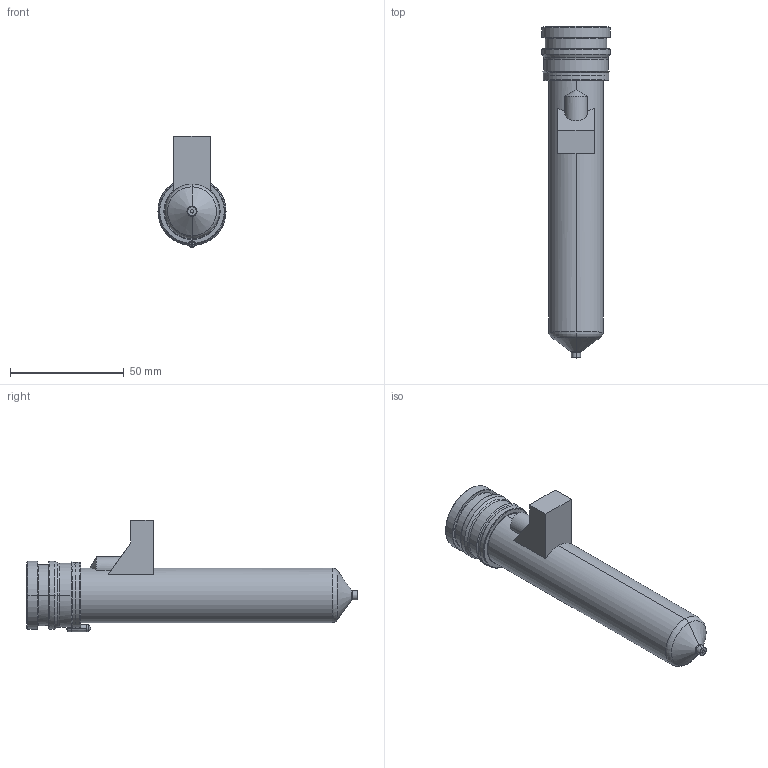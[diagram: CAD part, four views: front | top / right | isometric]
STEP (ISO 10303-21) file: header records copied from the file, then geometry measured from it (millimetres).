
FILE_DESCRIPTION((''),'2;1');
FILE_NAME('MPN-10-29-VP4-126-M','2026-02-05T12:59:04',('UPTIO'),('Thermoplay S.p.A.'),'CREO PARAMETRIC BY PTC INC, 2023494','CREO PARAMETRIC BY PTC INC, 2023494','');
FILE_SCHEMA(('CONFIG_CONTROL_DESIGN','SHAPE_APPEARANCE_LAYERS_GROUPS'));
Length unit declared in the file: millimetre
Products named in the file (1): MPN-10-29-VP4-126-M
Bounding box: 30 x 146.1 x 49 mm (x, y, z)
Volume: 46080.7 mm3; surface area: 47532 mm2
Topology: 3 solids, 5 shells, 570 faces, 1471 edges, 906 vertices
Faces by surface type: cylinder 177, plane 156, bspline 92, torus 69, cone 66, sphere 6, extrusion 4
Entity records: 28076 total; most frequent: CARTESIAN_POINT 11733, ORIENTED_EDGE 2928, DIRECTION 2618, EDGE_CURVE 1464, AXIS2_PLACEMENT_3D 1035, VERTEX_POINT 906, EDGE_LOOP 598, FACE_OUTER_BOUND 570
